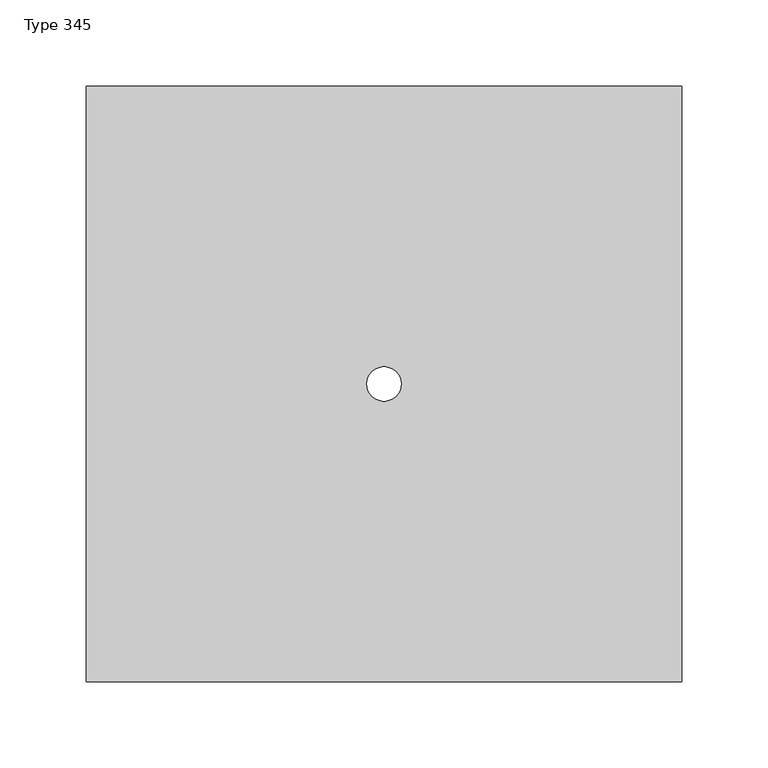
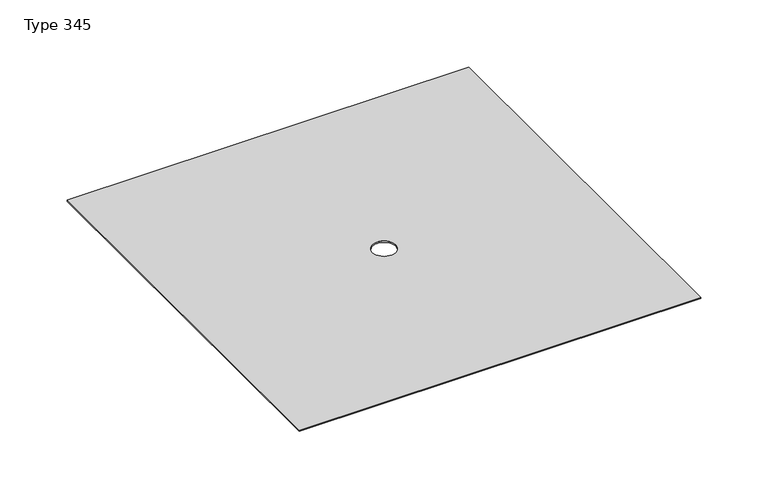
"""IFC4 building model written with IfcOpenShell, lengths in millimetres: proxy geometry, Dafa_Hi-tack_Pipe_Collar_FaceBased : Type 345."""

from ifc_helpers import new_model, si_unit, point, origin, origin_with_axes, origin_2d, place, context, project, spatial, polyline, circle_curve, trimmed, segment, composite_curve, outline, extrude, source, transform, mapped, element, save


def type_345_dcfd89e2(model_context):
    return source(origin(), model_context, "Body", "SweptSolid", [
        extrude(outline(polyline([(172.5, 172.5), (172.5, -172.5), (-172.5, -172.5), (-172.5, 172.5), (172.5, 172.5)]), holes=[composite_curve([segment(trimmed(circle_curve(origin_2d(), 10.0), [point((-10.0, 0.0))], [point((10.0, 0.0))], True, "CARTESIAN"), True, "CONTINUOUS"), segment(trimmed(circle_curve(origin_2d(), 10.0), [point((10.0, 0.0))], [point((-10.0, 0.0))], True, "CARTESIAN"), True, "CONTINUOUS")], self_intersect=False)]), origin_with_axes(), (0.0, 0.0, 1.0), 1.2),
    ])


if __name__ == "__main__":
    model = new_model("IFC4")
    model_context = context("Model", 3, world=origin())
    ifc_project = project(units=[si_unit("LENGTHUNIT", "METRE", prefix="MILLI")], contexts=[model_context])
    site = spatial("IfcSite", under=ifc_project)
    building = spatial("IfcBuilding", under=site)
    placement = place(None, origin())
    type_345_shape = type_345_dcfd89e2(model_context)
    element("IfcBuildingElementProxy", 1, Name="Dafa_Hi-tack_Pipe_Collar_FaceBased : Type 345", ObjectType="Dafa_Hi-tack_Pipe_Collar_FaceBased : Type 345", at=placement, inside=building, context=model_context, shape_type="MappedRepresentation", body=[
        mapped(type_345_shape, transform((0.0, 0.0, 0.0), x_axis=(1.0, 0.0, 0.0), y_axis=(0.0, 1.0, 0.0), z_axis=(0.0, 0.0, 1.0))),
    ])
    save(model, "model.ifc")
